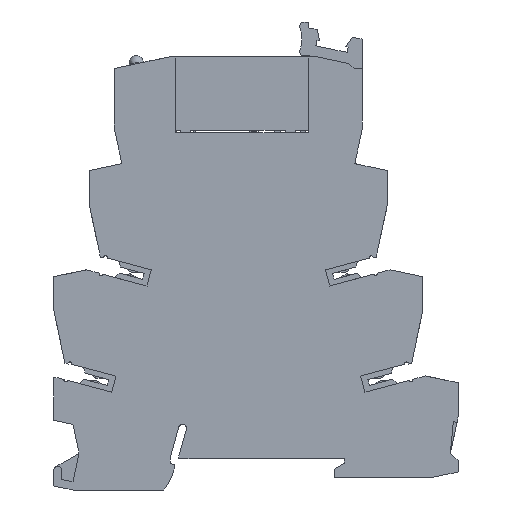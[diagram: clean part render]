
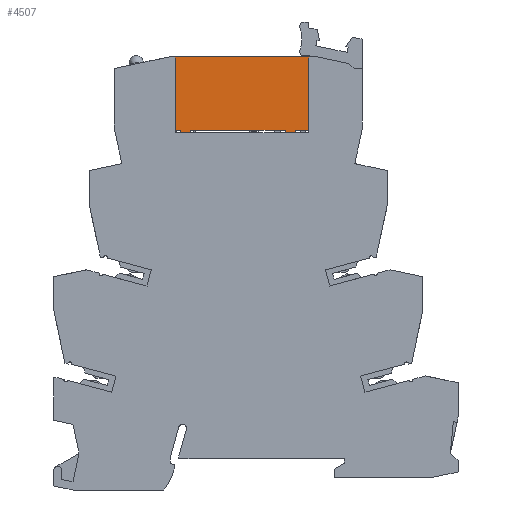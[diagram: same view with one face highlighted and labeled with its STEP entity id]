
A CAD part, left-side view. The second image highlights one B-rep face of the part: STEP entity #4507.
In plain terms, the highlighted planar face has unit normal (-1, 0, 0).
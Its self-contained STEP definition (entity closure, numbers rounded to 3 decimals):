
#2509=CARTESIAN_POINT('',(0.55,34.22,70.7));
#2510=VERTEX_POINT('',#2509);
#2511=CARTESIAN_POINT('',(0.55,32.22,70.7));
#2512=VERTEX_POINT('',#2511);
#2513=CARTESIAN_POINT('',(0.55,34.22,70.7));
#2514=DIRECTION('',(-0.,-1.,-0.));
#2515=VECTOR('',#2514,2.);
#2516=LINE('',#2513,#2515);
#2517=EDGE_CURVE('',#2510,#2512,#2516,.T.);
#2577=CARTESIAN_POINT('',(0.55,55.01,70.7));
#2578=VERTEX_POINT('',#2577);
#2579=CARTESIAN_POINT('',(0.55,53.01,70.7));
#2580=VERTEX_POINT('',#2579);
#2581=CARTESIAN_POINT('',(0.55,55.01,70.7));
#2582=DIRECTION('',(-0.,-1.,-0.));
#2583=VECTOR('',#2582,2.);
#2584=LINE('',#2581,#2583);
#2585=EDGE_CURVE('',#2578,#2580,#2584,.T.);
#4422=CARTESIAN_POINT('',(0.55,42.8,70.7));
#4423=DIRECTION('',(-1.,0.,-0.));
#4424=DIRECTION('',(-0.,-0.,1.));
#4425=AXIS2_PLACEMENT_3D('',#4422,#4423,#4424);
#4426=PLANE('',#4425);
#4427=CARTESIAN_POINT('',(0.55,53.01,71.2));
#4428=VERTEX_POINT('',#4427);
#4429=CARTESIAN_POINT('',(0.55,34.22,71.2));
#4430=VERTEX_POINT('',#4429);
#4431=CARTESIAN_POINT('',(0.55,53.01,71.2));
#4432=DIRECTION('',(-0.,-1.,-0.));
#4433=VECTOR('',#4432,18.79);
#4434=LINE('',#4431,#4433);
#4435=EDGE_CURVE('',#4428,#4430,#4434,.T.);
#4436=ORIENTED_EDGE('',*,*,#4435,.T.);
#4437=CARTESIAN_POINT('',(0.55,34.22,70.7));
#4438=DIRECTION('',(-0.,-0.,1.));
#4439=VECTOR('',#4438,0.5);
#4440=LINE('',#4437,#4439);
#4441=EDGE_CURVE('',#2510,#4430,#4440,.T.);
#4442=ORIENTED_EDGE('',*,*,#4441,.F.);
#4443=ORIENTED_EDGE('',*,*,#2517,.T.);
#4444=CARTESIAN_POINT('',(0.55,32.22,71.2));
#4445=VERTEX_POINT('',#4444);
#4446=CARTESIAN_POINT('',(0.55,32.22,71.2));
#4447=DIRECTION('',(0.,0.,-1.));
#4448=VECTOR('',#4447,0.5);
#4449=LINE('',#4446,#4448);
#4450=EDGE_CURVE('',#4445,#2512,#4449,.T.);
#4451=ORIENTED_EDGE('',*,*,#4450,.F.);
#4452=CARTESIAN_POINT('',(0.55,28.8,71.2));
#4453=VERTEX_POINT('',#4452);
#4454=CARTESIAN_POINT('',(0.55,32.22,71.2));
#4455=DIRECTION('',(-0.,-1.,-0.));
#4456=VECTOR('',#4455,3.42);
#4457=LINE('',#4454,#4456);
#4458=EDGE_CURVE('',#4445,#4453,#4457,.T.);
#4459=ORIENTED_EDGE('',*,*,#4458,.T.);
#4460=CARTESIAN_POINT('',(0.55,28.8,85.7));
#4461=VERTEX_POINT('',#4460);
#4462=CARTESIAN_POINT('',(0.55,28.8,71.2));
#4463=DIRECTION('',(-0.,-0.,1.));
#4464=VECTOR('',#4463,14.5);
#4465=LINE('',#4462,#4464);
#4466=EDGE_CURVE('',#4453,#4461,#4465,.T.);
#4467=ORIENTED_EDGE('',*,*,#4466,.T.);
#4468=CARTESIAN_POINT('',(0.55,56.8,85.7));
#4469=VERTEX_POINT('',#4468);
#4470=CARTESIAN_POINT('',(0.55,56.8,85.7));
#4471=DIRECTION('',(-0.,-1.,-0.));
#4472=VECTOR('',#4471,28.);
#4473=LINE('',#4470,#4472);
#4474=EDGE_CURVE('',#4469,#4461,#4473,.T.);
#4475=ORIENTED_EDGE('',*,*,#4474,.F.);
#4476=CARTESIAN_POINT('',(0.55,56.8,71.2));
#4477=VERTEX_POINT('',#4476);
#4478=CARTESIAN_POINT('',(0.55,56.8,85.7));
#4479=DIRECTION('',(0.,0.,-1.));
#4480=VECTOR('',#4479,14.5);
#4481=LINE('',#4478,#4480);
#4482=EDGE_CURVE('',#4469,#4477,#4481,.T.);
#4483=ORIENTED_EDGE('',*,*,#4482,.T.);
#4484=CARTESIAN_POINT('',(0.55,55.01,71.2));
#4485=VERTEX_POINT('',#4484);
#4486=CARTESIAN_POINT('',(0.55,56.8,71.2));
#4487=DIRECTION('',(-0.,-1.,-0.));
#4488=VECTOR('',#4487,1.79);
#4489=LINE('',#4486,#4488);
#4490=EDGE_CURVE('',#4477,#4485,#4489,.T.);
#4491=ORIENTED_EDGE('',*,*,#4490,.T.);
#4492=CARTESIAN_POINT('',(0.55,55.01,70.7));
#4493=DIRECTION('',(-0.,-0.,1.));
#4494=VECTOR('',#4493,0.5);
#4495=LINE('',#4492,#4494);
#4496=EDGE_CURVE('',#2578,#4485,#4495,.T.);
#4497=ORIENTED_EDGE('',*,*,#4496,.F.);
#4498=ORIENTED_EDGE('',*,*,#2585,.T.);
#4499=CARTESIAN_POINT('',(0.55,53.01,71.2));
#4500=DIRECTION('',(0.,0.,-1.));
#4501=VECTOR('',#4500,0.5);
#4502=LINE('',#4499,#4501);
#4503=EDGE_CURVE('',#4428,#2580,#4502,.T.);
#4504=ORIENTED_EDGE('',*,*,#4503,.F.);
#4505=EDGE_LOOP('',(#4436,#4442,#4443,#4451,#4459,#4467,#4475,#4483,#4491,#4497,#4498,#4504));
#4506=FACE_BOUND('',#4505,.T.);
#4507=ADVANCED_FACE('',(#4506),#4426,.T.);
